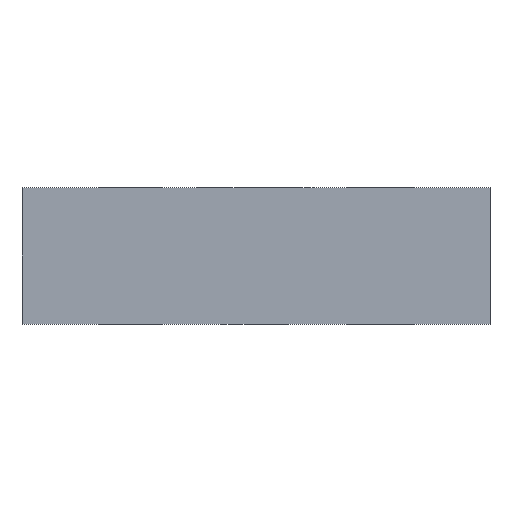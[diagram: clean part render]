
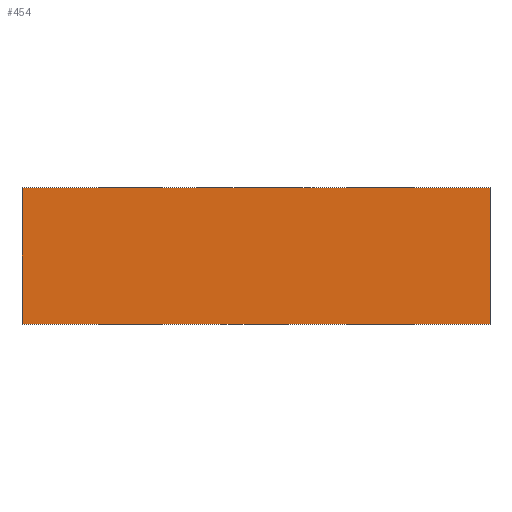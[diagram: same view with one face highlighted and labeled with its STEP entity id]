
A CAD part, front view. The second image highlights one B-rep face of the part: STEP entity #454.
In plain terms, the highlighted planar face has unit normal (0, -1, 0).
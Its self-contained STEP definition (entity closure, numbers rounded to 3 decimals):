
#57 = ORIENTED_EDGE ( 'NONE', *, *, #335, .F. ) ;
#66 = ORIENTED_EDGE ( 'NONE', *, *, #702, .T. ) ;
#144 = ORIENTED_EDGE ( 'NONE', *, *, #707, .T. ) ;
#152 = ORIENTED_EDGE ( 'NONE', *, *, #710, .F. ) ;
#161 = LINE ( 'NONE', #831, #162 ) ;
#162 = VECTOR ( 'NONE', #833, 1000. ) ;
#276 = FACE_OUTER_BOUND ( 'NONE', #418, .T. ) ;
#307 = AXIS2_PLACEMENT_3D ( 'NONE', #596, #600, #601 ) ;
#335 = EDGE_CURVE ( 'NONE', #409, #403, #161, .T. ) ;
#387 = VERTEX_POINT ( 'NONE', #484 ) ;
#390 = VERTEX_POINT ( 'NONE', #492 ) ;
#403 = VERTEX_POINT ( 'NONE', #502 ) ;
#409 = VERTEX_POINT ( 'NONE', #508 ) ;
#418 = EDGE_LOOP ( 'NONE', ( #66, #152, #57, #144 ) ) ;
#454 = ADVANCED_FACE ( 'NONE', ( #276 ), #599, .F. ) ;
#484 = CARTESIAN_POINT ( 'NONE',  ( 30.1, -105., 0. ) ) ;
#492 = CARTESIAN_POINT ( 'NONE',  ( -30.1, -105., 0. ) ) ;
#502 = CARTESIAN_POINT ( 'NONE',  ( 30.1, -105., 17.5 ) ) ;
#508 = CARTESIAN_POINT ( 'NONE',  ( -30.1, -105., 17.5 ) ) ;
#596 = CARTESIAN_POINT ( 'NONE',  ( -30.1, -105., 17.5 ) ) ;
#599 = PLANE ( 'NONE',  #307 ) ;
#600 = DIRECTION ( 'NONE',  ( 0., 1., 0. ) ) ;
#601 = DIRECTION ( 'NONE',  ( 0., 0., 1. ) ) ;
#628 = CARTESIAN_POINT ( 'NONE',  ( -30.1, -105., 0. ) ) ;
#635 = DIRECTION ( 'NONE',  ( 1., 0., 0. ) ) ;
#646 = CARTESIAN_POINT ( 'NONE',  ( -30.1, -105., 17.5 ) ) ;
#647 = DIRECTION ( 'NONE',  ( 0., 0., -1. ) ) ;
#652 = CARTESIAN_POINT ( 'NONE',  ( 30.1, -105., 17.5 ) ) ;
#654 = DIRECTION ( 'NONE',  ( 0., 0., -1. ) ) ;
#702 = EDGE_CURVE ( 'NONE', #390, #387, #852, .T. ) ;
#707 = EDGE_CURVE ( 'NONE', #409, #390, #863, .T. ) ;
#710 = EDGE_CURVE ( 'NONE', #403, #387, #869, .T. ) ;
#831 = CARTESIAN_POINT ( 'NONE',  ( -30.1, -105., 17.5 ) ) ;
#833 = DIRECTION ( 'NONE',  ( 1., 0., 0. ) ) ;
#852 = LINE ( 'NONE', #628, #858 ) ;
#858 = VECTOR ( 'NONE', #635, 1000. ) ;
#863 = LINE ( 'NONE', #646, #866 ) ;
#866 = VECTOR ( 'NONE', #647, 1000. ) ;
#869 = LINE ( 'NONE', #652, #871 ) ;
#871 = VECTOR ( 'NONE', #654, 1000. ) ;
